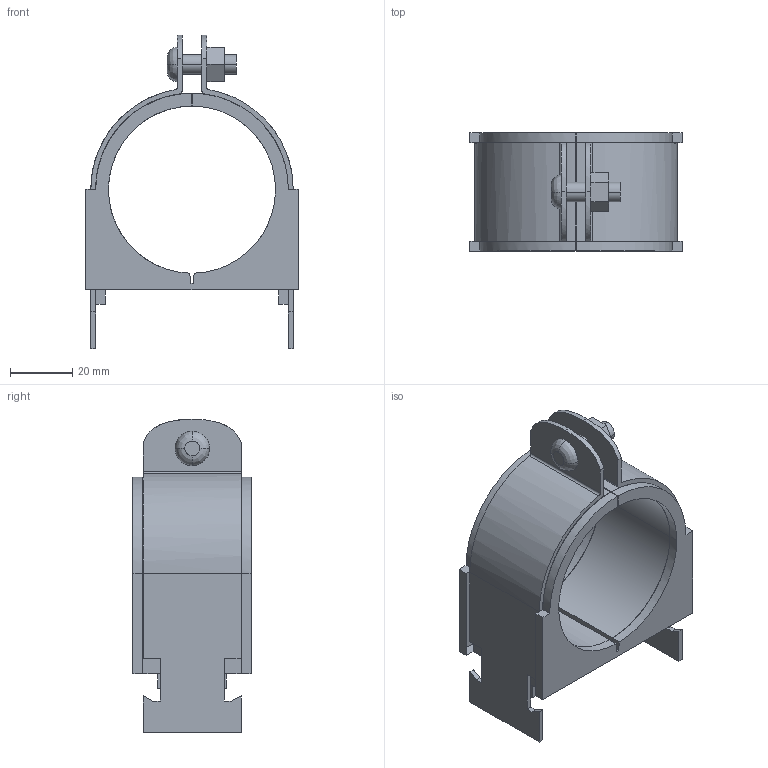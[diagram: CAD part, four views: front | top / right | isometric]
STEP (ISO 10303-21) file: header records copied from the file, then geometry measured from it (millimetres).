
FILE_DESCRIPTION(('TurboCAD Mac Pro'),'Build 980');
FILE_NAME('034N040.stp',' ',(''),(''),'ACIS Interop','IMSI','TurboCAD Mac Pro BY IMSI, INCORPORATED');
FILE_SCHEMA(('automotive_design'));
Length unit declared in the file: inch
Products named in the file (5): 1; 2; 3; 4; 5
Bounding box: 68.45 x 38.1 x 101.09 mm (x, y, z)
Volume: 61304.2 mm3; surface area: 35265.9 mm2
Topology: 5 solids, 5 shells, 143 faces, 372 edges, 240 vertices
Faces by surface type: plane 101, bspline 42
Entity records: 6042 total; most frequent: CARTESIAN_POINT 1598, ORIENTED_EDGE 744, DIRECTION 492, EDGE_CURVE 372, LINE 272, VECTOR 272, VERTEX_POINT 240, STYLED_ITEM 148
